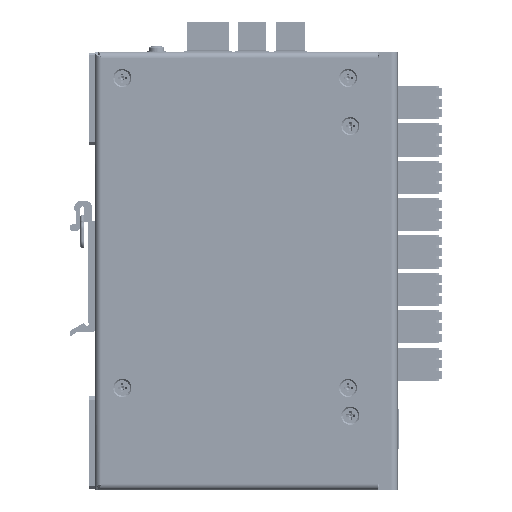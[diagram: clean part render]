
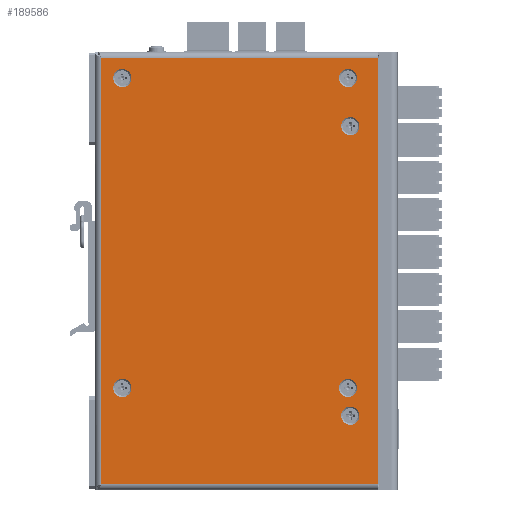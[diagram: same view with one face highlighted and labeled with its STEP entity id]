
A CAD part, left-side view. The second image highlights one B-rep face of the part: STEP entity #189586.
In plain terms, the highlighted planar face has unit normal (-1, 0, 0) as drawn and (0, 0, -1) by its records, which use the part's own axes.
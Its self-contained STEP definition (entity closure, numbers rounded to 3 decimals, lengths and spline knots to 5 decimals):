
#9686=CIRCLE('',#207328,0.00325);
#9688=CIRCLE('',#207331,0.00325);
#9690=CIRCLE('',#207334,0.00325);
#9695=CIRCLE('',#207342,0.00325);
#9696=CIRCLE('',#207343,0.00325);
#9697=CIRCLE('',#207344,0.00325);
#62944=ORIENTED_EDGE('',*,*,#90375,.T.);
#62945=ORIENTED_EDGE('',*,*,#90373,.T.);
#62946=ORIENTED_EDGE('',*,*,#90371,.T.);
#62947=ORIENTED_EDGE('',*,*,#90387,.T.);
#62948=ORIENTED_EDGE('',*,*,#90388,.T.);
#62949=ORIENTED_EDGE('',*,*,#90389,.F.);
#62950=ORIENTED_EDGE('',*,*,#90367,.T.);
#62951=ORIENTED_EDGE('',*,*,#90390,.T.);
#62952=ORIENTED_EDGE('',*,*,#90391,.T.);
#62953=ORIENTED_EDGE('',*,*,#90392,.T.);
#90367=EDGE_CURVE('',#107924,#107894,#128740,.T.);
#90371=EDGE_CURVE('',#107926,#107926,#9686,.T.);
#90373=EDGE_CURVE('',#107928,#107928,#9688,.T.);
#90375=EDGE_CURVE('',#107930,#107930,#9690,.T.);
#90387=EDGE_CURVE('',#107894,#107940,#128749,.T.);
#90388=EDGE_CURVE('',#107940,#107941,#128750,.T.);
#90389=EDGE_CURVE('',#107924,#107941,#128751,.T.);
#90390=EDGE_CURVE('',#107942,#107942,#9695,.T.);
#90391=EDGE_CURVE('',#107943,#107943,#9696,.T.);
#90392=EDGE_CURVE('',#107944,#107944,#9697,.T.);
#107894=VERTEX_POINT('',#326343);
#107924=VERTEX_POINT('',#326476);
#107926=VERTEX_POINT('',#326484);
#107928=VERTEX_POINT('',#326489);
#107930=VERTEX_POINT('',#326494);
#107940=VERTEX_POINT('',#326519);
#107941=VERTEX_POINT('',#326521);
#107942=VERTEX_POINT('',#326524);
#107943=VERTEX_POINT('',#326526);
#107944=VERTEX_POINT('',#326528);
#128740=LINE('',#326475,#149287);
#128749=LINE('',#326518,#149296);
#128750=LINE('',#326520,#149297);
#128751=LINE('',#326522,#149298);
#149287=VECTOR('',#255519,1.);
#149296=VECTOR('',#255564,1.);
#149297=VECTOR('',#255565,1.);
#149298=VECTOR('',#255566,1.);
#160456=EDGE_LOOP('',(#62944));
#160457=EDGE_LOOP('',(#62945));
#160458=EDGE_LOOP('',(#62946));
#160459=EDGE_LOOP('',(#62947,#62948,#62949,#62950));
#160460=EDGE_LOOP('',(#62951));
#160461=EDGE_LOOP('',(#62952));
#160462=EDGE_LOOP('',(#62953));
#172148=FACE_BOUND('',#160456,.T.);
#172149=FACE_BOUND('',#160457,.T.);
#172150=FACE_BOUND('',#160458,.T.);
#172151=FACE_BOUND('',#160459,.T.);
#172152=FACE_BOUND('',#160460,.T.);
#172153=FACE_BOUND('',#160461,.T.);
#172154=FACE_BOUND('',#160462,.T.);
#179874=PLANE('',#207341);
#189586=ADVANCED_FACE('',(#172148,#172149,#172150,#172151,#172152,#172153,
#172154),#179874,.T.);
#207328=AXIS2_PLACEMENT_3D('',#326483,#255529,#255530);
#207331=AXIS2_PLACEMENT_3D('',#326488,#255535,#255536);
#207334=AXIS2_PLACEMENT_3D('',#326493,#255541,#255542);
#207341=AXIS2_PLACEMENT_3D('',#326517,#255562,#255563);
#207342=AXIS2_PLACEMENT_3D('',#326523,#255567,#255568);
#207343=AXIS2_PLACEMENT_3D('',#326525,#255569,#255570);
#207344=AXIS2_PLACEMENT_3D('',#326527,#255571,#255572);
#255519=DIRECTION('',(0.,1.,0.));
#255529=DIRECTION('',(0.,0.,1.));
#255530=DIRECTION('',(1.,0.,0.));
#255535=DIRECTION('',(0.,0.,1.));
#255536=DIRECTION('',(1.,0.,0.));
#255541=DIRECTION('',(0.,0.,1.));
#255542=DIRECTION('',(1.,0.,0.));
#255562=DIRECTION('',(0.,0.,-1.));
#255563=DIRECTION('',(-1.,0.,0.));
#255564=DIRECTION('',(1.,0.,0.));
#255565=DIRECTION('',(0.,-1.,0.));
#255566=DIRECTION('',(1.,0.,0.));
#255567=DIRECTION('',(0.,0.,1.));
#255568=DIRECTION('',(1.,0.,0.));
#255569=DIRECTION('',(0.,0.,1.));
#255570=DIRECTION('',(1.,0.,0.));
#255571=DIRECTION('',(0.,0.,1.));
#255572=DIRECTION('',(1.,0.,0.));
#326343=CARTESIAN_POINT('',(-0.06231,0.04857,0.));
#326475=CARTESIAN_POINT('',(-0.06231,0.04831,0.));
#326476=CARTESIAN_POINT('',(-0.06231,-0.05026,0.));
#326483=CARTESIAN_POINT('',(-0.05525,0.04102,0.));
#326484=CARTESIAN_POINT('',(-0.052,0.04102,0.));
#326488=CARTESIAN_POINT('',(-0.05525,-0.03944,0.));
#326489=CARTESIAN_POINT('',(-0.052,-0.03944,0.));
#326493=CARTESIAN_POINT('',(-0.0381,-0.04023,0.));
#326494=CARTESIAN_POINT('',(-0.03485,-0.04023,0.));
#326517=CARTESIAN_POINT('',(0.0036,0.28302,0.));
#326518=CARTESIAN_POINT('',(0.06205,0.04857,0.));
#326519=CARTESIAN_POINT('',(0.08933,0.04857,0.));
#326520=CARTESIAN_POINT('',(0.08933,-0.05054,0.));
#326521=CARTESIAN_POINT('',(0.08933,-0.05026,0.));
#326522=CARTESIAN_POINT('',(0.16564,-0.05026,0.));
#326523=CARTESIAN_POINT('',(0.05524,-0.03944,0.));
#326524=CARTESIAN_POINT('',(0.05849,-0.03944,0.));
#326525=CARTESIAN_POINT('',(0.06513,-0.04023,0.));
#326526=CARTESIAN_POINT('',(0.06838,-0.04023,0.));
#326527=CARTESIAN_POINT('',(0.05524,0.04102,0.));
#326528=CARTESIAN_POINT('',(0.05849,0.04102,0.));
